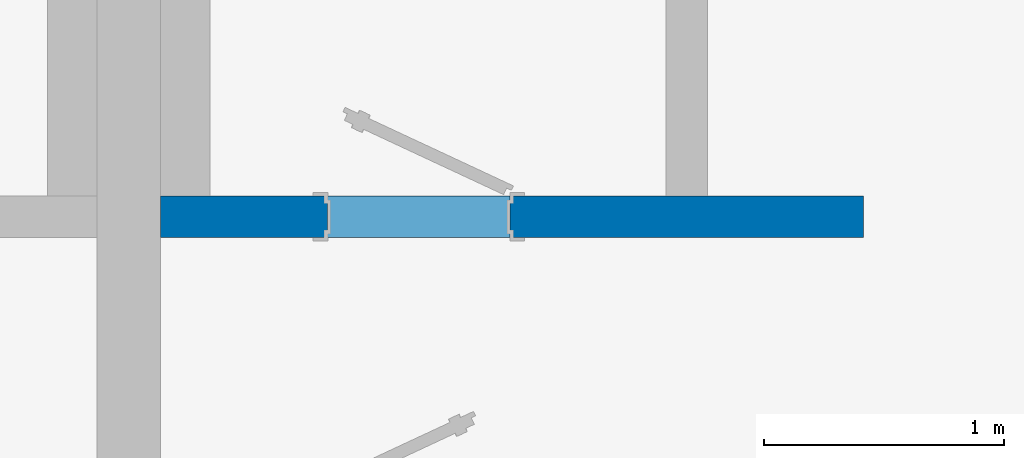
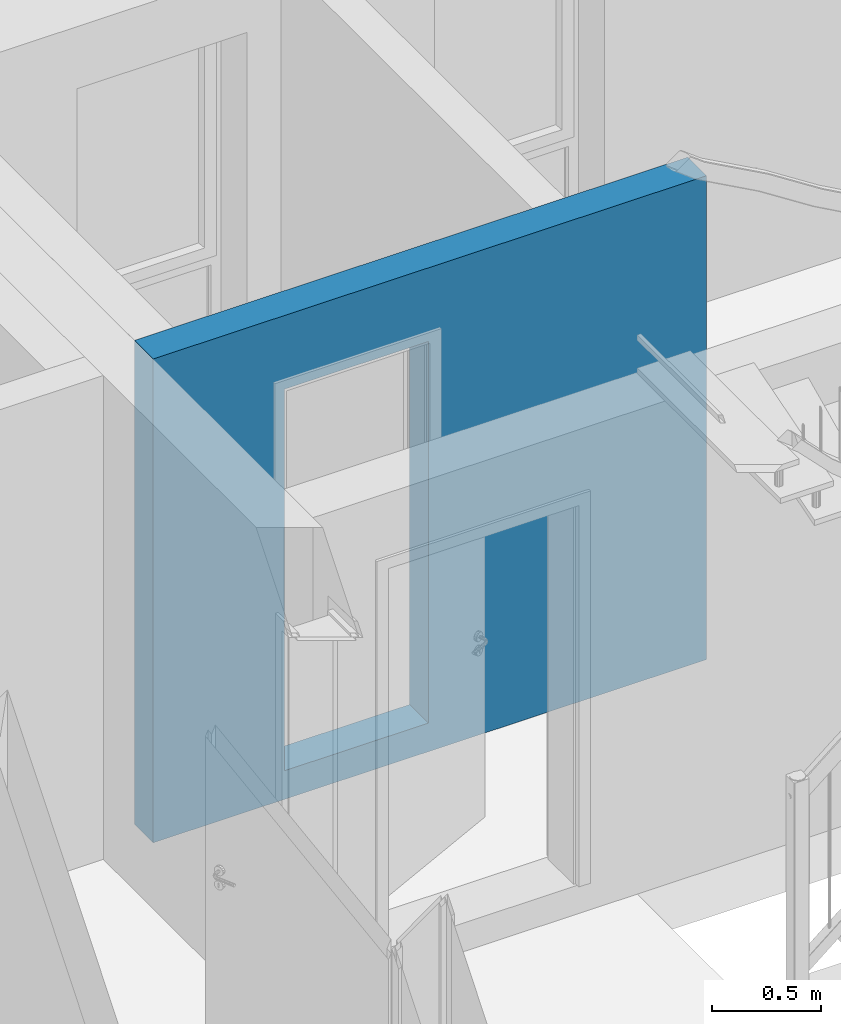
# One storey, part 9 of 16: 1 wall, 1 opening.
"""IFC2X3 building model written with IfcOpenShell, lengths in millimetres."""

from ifc_helpers import new_model, si_unit, frame, origin_with_axes, place, context, project, spatial, faceted_brep, material, layer, layer_set, layer_usage, element, save


model = new_model("IFC2X3")

# Units and contexts
model_context = context("Model", 3, world=origin_with_axes())
ifc_project = project(units=[si_unit("LENGTHUNIT", "METRE", prefix="MILLI")], contexts=[model_context])

# Site, building, storey
site_placement = place(None, origin_with_axes())
site = spatial("IfcSite", under=ifc_project, at=site_placement, Name="Site", CompositionType="ELEMENT")
building_placement = place(site_placement, origin_with_axes())
building = spatial("IfcBuilding", under=site, at=building_placement, Name="?", CompositionType="ELEMENT")
storey_placement = place(building_placement, frame((0.0, 0.0, 2969.0), z_axis=(0.0, 0.0, 1.0), x_axis=(1.0, 0.0, 0.0)))
storey = spatial("IfcBuildingStorey", under=building, at=storey_placement, Name="Obergeschoß 1", CompositionType="ELEMENT", Elevation=2969.0)

# Wall, opening
ifc_material = material(Name="Material_IW")
ifc_layer = layer(ifc_material, 172.0, ventilated=False)
ifc_layer_set = layer_set([ifc_layer], Name="MaterialLayerSet_IW")
ifc_layer_usage = layer_usage(ifc_layer_set, "AXIS2", "NEGATIVE", 86.0)
wall_placement = place(storey_placement, frame((9895.0, -2783.0, 0.0), z_axis=(0.0, 0.0, 1.0), x_axis=(1.0, 0.0, 0.0)))
wall = element("IfcWall", 1, at=wall_placement, inside=storey, material=ifc_layer_usage, Name="IW-27", context=model_context, shape_type="Brep", body=[
    faceted_brep([(2928.0, -86.0, 0.0), (2928.0, -86.0, 2707.0), (0.0, -86.0, 2707.0), (0.0, -86.0, 0.0), (2928.0, 86.0, 0.0), (2928.0, 86.0, 2707.0), (2928.0, -86.0, 2707.0), (2928.0, -86.0, 0.0), (0.0, 86.0, 0.0), (0.0, 86.0, 2707.0), (2928.0, 86.0, 2707.0), (2928.0, 86.0, 0.0), (0.0, -86.0, 0.0), (0.0, -86.0, 2707.0), (0.0, 86.0, 2707.0), (0.0, 86.0, 0.0), (0.0, -86.0, 0.0), (0.0, 86.0, 0.0), (2928.0, 86.0, 0.0), (2928.0, -86.0, 0.0), (0.0, -86.0, 2707.0), (2928.0, -86.0, 2707.0), (2928.0, 86.0, 2707.0), (0.0, 86.0, 2707.0)], [[[0, 1, 2, 3]], [[4, 5, 6, 7]], [[8, 9, 10, 11]], [[12, 13, 14, 15]], [[16, 17, 18, 19]], [[20, 21, 22, 23]]]),
])
opening_placement = place(wall_placement, frame((696.0, 0.0, 160.0), z_axis=(0.0, 0.0, 1.0), x_axis=(1.0, 0.0, 0.0)))
element("IfcOpeningElement", 2, at=opening_placement, cuts=wall, Name="IW-27|IT12", context=model_context, shape_type="Brep", body=[
    faceted_brep([(0.0, 96.0, 0.0), (0.0, 96.0, 2135.0), (760.0, 96.0, 2135.0), (760.0, 96.0, 0.0), (0.0, -96.0, 0.0), (0.0, -96.0, 2135.0), (0.0, 96.0, 2135.0), (0.0, 96.0, 0.0), (760.0, -96.0, 0.0), (0.0, -96.0, 0.0), (0.0, 96.0, 0.0), (760.0, 96.0, 0.0), (760.0, -96.0, 2135.0), (760.0, -96.0, 0.0), (760.0, 96.0, 0.0), (760.0, 96.0, 2135.0), (0.0, -96.0, 2135.0), (760.0, -96.0, 2135.0), (760.0, 96.0, 2135.0), (0.0, 96.0, 2135.0), (0.0, -96.0, 0.0), (760.0, -96.0, 0.0), (760.0, -96.0, 2135.0), (0.0, -96.0, 2135.0)], [[[0, 1, 2, 3]], [[4, 5, 6, 7]], [[8, 9, 10, 11]], [[12, 13, 14, 15]], [[16, 17, 18, 19]], [[20, 21, 22, 23]]]),
])

save(model, "model.ifc")
